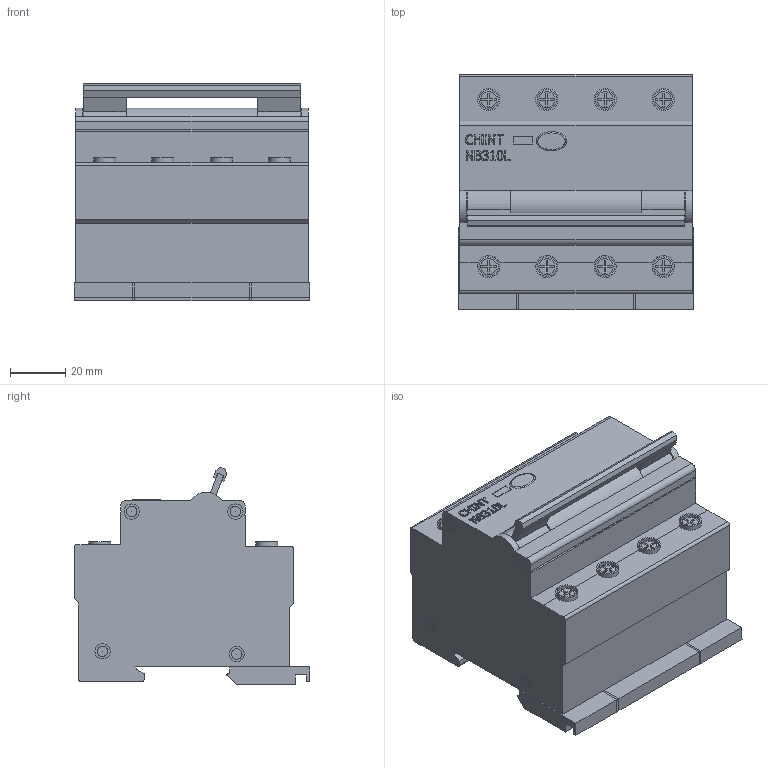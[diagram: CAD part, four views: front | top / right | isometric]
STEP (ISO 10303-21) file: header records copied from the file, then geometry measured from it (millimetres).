
FILE_DESCRIPTION(/* description */ (''),/* implementation_level */ '2;1');
FILE_NAME(/* name */ 'D:\CHINT\NB310L\Диф. автомат NB310L 3P+N C6 30mA тип AC х-ка С 6kA (CHINT).stp',/* time_stamp */ '2017-09-24T19:23:05+04:00',/* author */ ('RSagdiev'),/* organization */ (''),/* preprocessor_version */ 'ST-DEVELOPER v16.5',/* originating_system */ 'Autodesk Inventor 2017',/* authorisation */ '');
FILE_SCHEMA (('AUTOMOTIVE_DESIGN { 1 0 10303 214 3 1 1 }'));
Length unit declared in the file: millimetre
Products named in the file (1): Диф. автомат NB310L 3P+
N C6 30mA тип AC х-ка \X2\0421
\X0\ 6kA (CHINT)
Bounding box: 84.8 x 85 x 78.49 mm (x, y, z)
Volume: 374286.6 mm3; surface area: 45087 mm2
Topology: 11 solids, 11 shells, 551 faces, 1377 edges, 904 vertices
Faces by surface type: plane 368, cylinder 111, bspline 64, torus 8
Full cylindrical faces by diameter (mm): 0.001 x13, 3.794 x16, 5.491 x16, 7 x8, 8 x8
Entity records: 16647 total; most frequent: CARTESIAN_POINT 3874, ORIENTED_EDGE 2592, DIRECTION 2400, EDGE_CURVE 1296, LINE 916, VECTOR 916, VERTEX_POINT 892, AXIS2_PLACEMENT_3D 742
